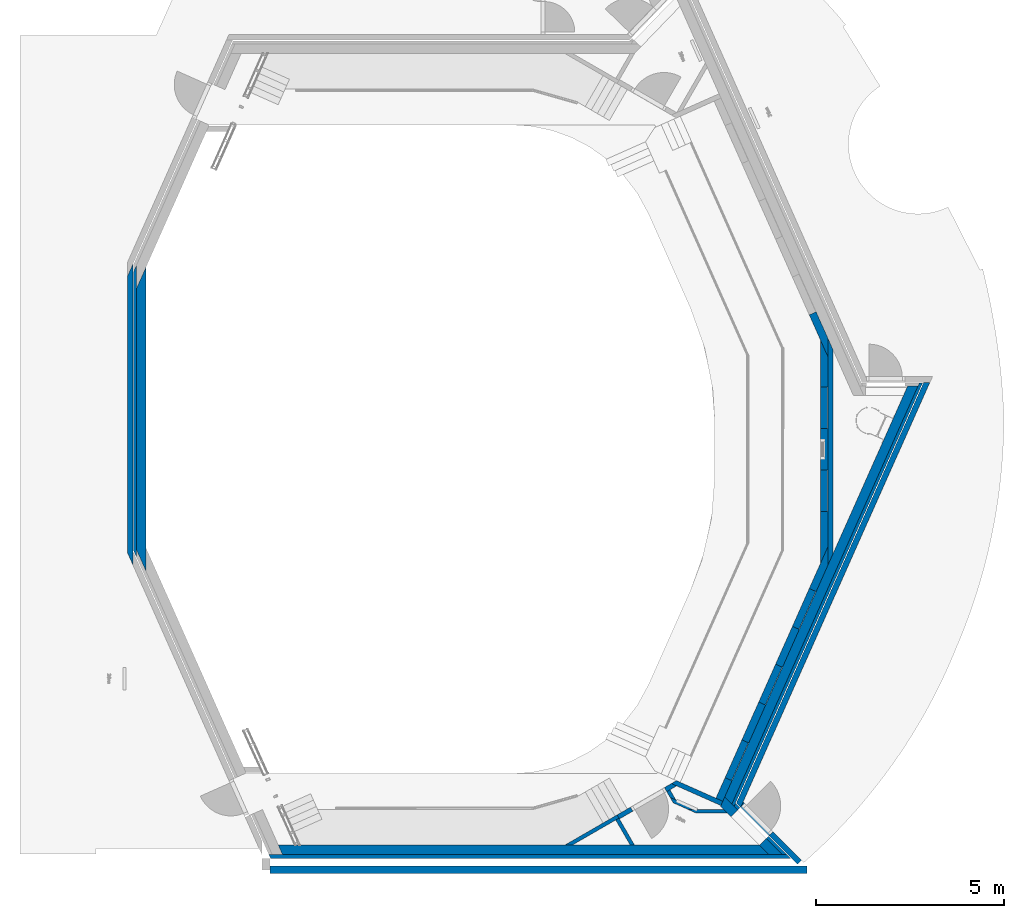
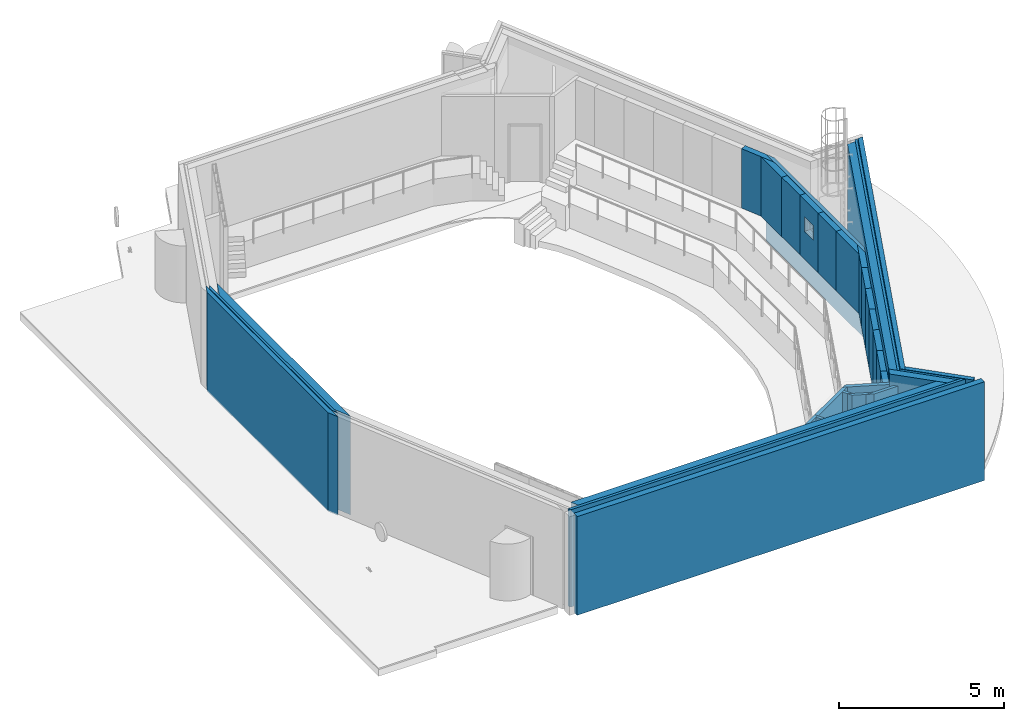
# One storey, part 7 of 16: 33 walls, 6 openings.
"""IFC2X3 building model written with IfcOpenShell, lengths in millimetres."""

from ifc_helpers import new_model, entity, si_unit, converted_unit, derived_unit, direction, frame, frame_2d, origin, origin_2d_with_axis, place, context, subcontext, project, spatial, polyline, rectangle, outline, extrude, clip, halfspace, material, layer, layer_set, layer_usage, type_object, element, save


model = new_model("IFC2X3")

# Units and contexts
model_context = context("Model", 3, precision=0.01, world=origin(), true_north=direction((6.123031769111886e-17, 1.0)))
body_context = subcontext(model_context, "Body", "Model", "MODEL_VIEW")
ifc_project = project(units=[si_unit("LENGTHUNIT", "METRE", prefix="MILLI"), si_unit("AREAUNIT", "SQUARE_METRE"), si_unit("VOLUMEUNIT", "CUBIC_METRE"), converted_unit("PLANEANGLEUNIT", "DEGREE", entity("IfcRatioMeasure", 0.017453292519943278), si_unit("PLANEANGLEUNIT", "RADIAN"), dimensions=[0, 0, 0, 0, 0, 0, 0]), si_unit("MASSUNIT", "GRAM", prefix="KILO"), derived_unit("MASSDENSITYUNIT", [(si_unit("MASSUNIT", "GRAM", prefix="KILO"), 1), (si_unit("LENGTHUNIT", "METRE"), -3)]), derived_unit("MOMENTOFINERTIAUNIT", [(si_unit("LENGTHUNIT", "METRE"), 4)]), si_unit("TIMEUNIT", "SECOND"), si_unit("FREQUENCYUNIT", "HERTZ"), si_unit("THERMODYNAMICTEMPERATUREUNIT", "DEGREE_CELSIUS"), derived_unit("THERMALTRANSMITTANCEUNIT", [(si_unit("MASSUNIT", "GRAM", prefix="KILO"), 1), (si_unit("THERMODYNAMICTEMPERATUREUNIT", "KELVIN"), -1), (si_unit("TIMEUNIT", "SECOND"), -3)]), derived_unit("VOLUMETRICFLOWRATEUNIT", [(si_unit("LENGTHUNIT", "METRE"), 3), (si_unit("TIMEUNIT", "SECOND"), -1)]), derived_unit("MASSFLOWRATEUNIT", [(si_unit("MASSUNIT", "GRAM", prefix="KILO"), 1), (si_unit("TIMEUNIT", "SECOND"), -1)]), derived_unit("ROTATIONALFREQUENCYUNIT", [(si_unit("TIMEUNIT", "SECOND"), -1)]), si_unit("ELECTRICCURRENTUNIT", "AMPERE"), si_unit("ELECTRICVOLTAGEUNIT", "VOLT"), si_unit("POWERUNIT", "WATT"), si_unit("FORCEUNIT", "NEWTON", prefix="KILO"), si_unit("ILLUMINANCEUNIT", "LUX"), si_unit("LUMINOUSFLUXUNIT", "LUMEN"), si_unit("LUMINOUSINTENSITYUNIT", "CANDELA"), derived_unit("USERDEFINED", [(si_unit("MASSUNIT", "GRAM", prefix="KILO"), -1), (si_unit("LENGTHUNIT", "METRE"), -2), (si_unit("TIMEUNIT", "SECOND"), 3), (si_unit("LUMINOUSFLUXUNIT", "LUMEN"), 1)]), derived_unit("SOUNDPOWERUNIT", [(si_unit("MASSUNIT", "GRAM", prefix="KILO"), 1), (si_unit("LENGTHUNIT", "METRE"), 2), (si_unit("TIMEUNIT", "SECOND"), -3)]), derived_unit("SOUNDPRESSUREUNIT", [(si_unit("MASSUNIT", "GRAM", prefix="KILO"), 1), (si_unit("LENGTHUNIT", "METRE"), -1), (si_unit("TIMEUNIT", "SECOND"), -2)]), derived_unit("LINEARVELOCITYUNIT", [(si_unit("LENGTHUNIT", "METRE"), 1), (si_unit("TIMEUNIT", "SECOND"), -1)]), si_unit("PRESSUREUNIT", "PASCAL"), derived_unit("USERDEFINED", [(si_unit("LENGTHUNIT", "METRE"), -2), (si_unit("MASSUNIT", "GRAM", prefix="KILO"), 1), (si_unit("TIMEUNIT", "SECOND"), -2)]), derived_unit("LINEARFORCEUNIT", [(si_unit("MASSUNIT", "GRAM", prefix="KILO"), 1), (si_unit("LENGTHUNIT", "METRE"), 1), (si_unit("TIMEUNIT", "SECOND"), -2), (si_unit("LENGTHUNIT", "METRE"), -1)]), derived_unit("PLANARFORCEUNIT", [(si_unit("MASSUNIT", "GRAM", prefix="KILO"), 1), (si_unit("LENGTHUNIT", "METRE"), 1), (si_unit("TIMEUNIT", "SECOND"), -2), (si_unit("LENGTHUNIT", "METRE"), -2)])], contexts=[model_context])

# Site, building, storey
site_placement = place(None, frame((-10000.0, -10000.0, 0.0)))
site = spatial("IfcSite", under=ifc_project, at=site_placement, Name="Default", CompositionType="ELEMENT")
building_placement = place(site_placement, origin())
building = spatial("IfcBuilding", under=site, at=building_placement, CompositionType="ELEMENT")
storey_placement = place(building_placement, frame((0.0, 0.0, 9000.0)))
storey = spatial("IfcBuildingStorey", under=building, at=storey_placement, Name="02 2e verdieping", CompositionType="ELEMENT", Elevation=9000.0)

# Walls
ifc_material_1 = material(Name="NLRS_beton ihwg")
ifc_layer_1 = layer(ifc_material_1, 250.00000000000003)
ifc_layer_set_1 = layer_set([ifc_layer_1], Name="Basic Wall:NLRS_21_WA_beton 250mm_ags")
ifc_layer_usage_1 = layer_usage(ifc_layer_set_1, "AXIS2", "NEGATIVE", 125.00000000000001)
wall_type_1 = type_object("IfcWallType", Name="Basic Wall:NLRS_21_WA_beton 250mm_ags", PredefinedType="STANDARD", material=ifc_layer_set_1)
wall_1_placement = place(storey_placement, frame((25650.0, 43486.43397011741, -50.0), z_axis=(0.0, 0.0, 1.0), x_axis=(0.0, -1.0, 0.0)))
element("IfcWallStandardCase", 1, at=wall_1_placement, inside=storey, type_object=wall_type_1, material=ifc_layer_usage_1, Name="Basic Wall:NLRS_21_WA_beton 250mm_ags", ObjectType="Basic Wall:NLRS_21_WA_beton 250mm_ags", context=body_context, shape_type="Clipping", body=[
    clip(extrude(outline(polyline([(7533.19161774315, -125.0), (8094.700811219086, 125.0), (7480.052477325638, 125.0), (0.0, 125.0), (561.5091934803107, -125.0), (7533.19161774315, -125.0)])), origin(), (0.0, 0.0, 1.0), 3649.9999999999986), halfspace(frame((0.0, 0.0, -50.0)), True)),
])
ifc_layer_usage_2 = layer_usage(ifc_layer_set_1, "AXIS2", "NEGATIVE", 125.00000000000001)
wall_2_placement = place(storey_placement, frame((29284.01712027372, 28000.0, -50.0)))
element("IfcWallStandardCase", 2, at=wall_2_placement, inside=storey, type_object=wall_type_1, material=ifc_layer_usage_2, Name="Basic Wall:NLRS_21_WA_beton 250mm_ags", ObjectType="Basic Wall:NLRS_21_WA_beton 250mm_ags", context=body_context, shape_type="Clipping", body=[
    clip(extrude(outline(polyline([(13032.486941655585, -125.0), (12782.486941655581, 125.0), (0.0, 125.0), (111.30717132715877, -125.0), (13032.486941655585, -125.0)])), origin(), (0.0, 0.0, 1.0), 3649.9999999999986), halfspace(frame((0.0, 0.0, -50.0)), True)),
])
ifc_layer_usage_3 = layer_usage(ifc_layer_set_1, "AXIS2", "NEGATIVE", 125.00000000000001)
wall_3_placement = place(storey_placement, frame((46159.346673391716, 40368.82110837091, -50.0), z_axis=(0.0, 0.0, 1.0), x_axis=(-0.40673664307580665, -0.9135454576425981, 0.0)))
element("IfcWallStandardCase", 3, at=wall_3_placement, inside=storey, type_object=wall_type_1, material=ifc_layer_usage_3, Name="Basic Wall:NLRS_21_WA_beton 250mm_ags", ObjectType="Basic Wall:NLRS_21_WA_beton 250mm_ags", context=body_context, shape_type="Clipping", body=[
    clip(extrude(outline(polyline([(12057.846742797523, -125.0), (12153.812751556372, 125.0), (0.0, 125.0), (111.30717132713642, -125.0), (12057.846742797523, -125.0)])), origin(), (0.0, 0.0, 1.0), 3649.9999999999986), halfspace(frame((0.0, 0.0, -50.0)), True)),
])

# Wall, opening
ifc_layer_usage_4 = layer_usage(ifc_layer_set_1, "AXIS2", "NEGATIVE", 125.00000000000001)
wall_4_placement = place(storey_placement, frame((41052.39703665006, 29315.883720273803, -50.0), z_axis=(0.0, 0.0, 1.0), x_axis=(0.7071067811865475, -0.7071067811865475, 0.0)))
wall_4 = element("IfcWallStandardCase", 4, at=wall_4_placement, inside=storey, type_object=wall_type_1, material=ifc_layer_usage_4, Name="Basic Wall:NLRS_21_WA_beton 250mm_ags", ObjectType="Basic Wall:NLRS_21_WA_beton 250mm_ags", context=body_context, shape_type="Clipping", body=[
    clip(extrude(outline(polyline([(95.96600875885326, -125.0), (1559.1639088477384, -125.0), (1912.7172994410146, -125.0), (2162.7172994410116, 125.0), (267.78624840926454, 125.0), (0.0, 125.0), (95.96600875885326, -125.0)])), origin(), (0.0, 0.0, 1.0), 3649.9999999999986), halfspace(frame((0.0, 0.0, -50.0)), True)),
])
opening_1_placement = place(wall_4_placement, origin())
element("IfcOpeningElement", 5, at=opening_1_placement, cuts=wall_4, Name="Basic Wall:NLRS_21_WA_beton 250mm_ags", ObjectType="Opening", context=body_context, shape_type="SweptSolid", body=[
    extrude(rectangle(XDim=2220.0, YDim=1065.0000000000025, at=frame_2d((-1.1368683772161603e-12, 0.0), x_axis=(1.0, 0.0))), frame((1026.6639088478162, -125.0, 1110.0), z_axis=(0.0, 1.0, 0.0), x_axis=(0.0, 0.0, -1.0)), (0.0, 0.0, 1.0), 250.00000000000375),
])

# Walls
ifc_material_2 = material(Name="NLRS_kalkzandsteen")
ifc_layer_2 = layer(ifc_material_2, 150.0)
ifc_layer_set_2 = layer_set([ifc_layer_2], Name="Basic Wall:NLRS_22_WA_kalkzandsteen 150mm_ags")
ifc_layer_usage_5 = layer_usage(ifc_layer_set_2, "AXIS2", "NEGATIVE", 75.0)
wall_type_2 = type_object("IfcWallType", Name="Basic Wall:NLRS_22_WA_kalkzandsteen 150mm_ags", PredefinedType="STANDARD", material=ifc_layer_set_2)
wall_5_placement = place(storey_placement, frame((25350.0, 43560.82876670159, -50.0), z_axis=(0.0, 0.0, 1.0), x_axis=(0.0, -1.0, 0.0)))
element("IfcWallStandardCase", 6, at=wall_5_placement, inside=storey, type_object=wall_type_2, material=ifc_layer_usage_5, Name="Basic Wall:NLRS_22_WA_kalkzandsteen 150mm_ags", ObjectType="Basic Wall:NLRS_22_WA_kalkzandsteen 150mm_ags", context=body_context, shape_type="Clipping", body=[
    clip(extrude(outline(polyline([(7660.725554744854, -75.0), (7997.631070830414, 75.0), (7628.84207049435, 75.0), (0.0, 75.0), (336.9055160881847, -75.0), (7660.725554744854, -75.0)])), origin(), (0.0, 0.0, 1.0), 3649.9999999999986), halfspace(frame((0.0, 0.0, -50.0)), True)),
])
ifc_layer_usage_6 = layer_usage(ifc_layer_set_2, "AXIS2", "NEGATIVE", 75.0)
wall_6_placement = place(storey_placement, frame((46523.20588443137, 40448.48427621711, -50.0), z_axis=(0.0, 0.0, 1.0), x_axis=(-0.40673664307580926, -0.9135454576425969, 0.0)))
element("IfcWallStandardCase", 7, at=wall_6_placement, inside=storey, type_object=wall_type_2, material=ifc_layer_usage_6, Name="Basic Wall:NLRS_22_WA_kalkzandsteen 150mm_ags", ObjectType="Basic Wall:NLRS_22_WA_kalkzandsteen 150mm_ags", context=body_context, shape_type="Clipping", body=[
    clip(extrude(outline(polyline([(12305.855454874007, -75.0), (12363.435060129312, 75.0), (12202.76331108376, 75.0), (0.0, 75.0), (66.7843027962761, -75.0), (12305.855454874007, -75.0)])), origin(), (0.0, 0.0, 1.0), 3649.9999999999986), halfspace(frame((0.0, 0.0, -50.0)), True)),
])

# Wall, opening
ifc_layer_usage_7 = layer_usage(ifc_layer_set_2, "AXIS2", "NEGATIVE", 75.0)
wall_7_placement = place(storey_placement, frame((41575.37779976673, 29217.16702586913, -50.0), z_axis=(0.0, 0.0, 1.0), x_axis=(0.7071067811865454, -0.7071067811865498, 0.0)))
wall_7 = element("IfcWallStandardCase", 8, at=wall_7_placement, inside=storey, type_object=wall_type_2, material=ifc_layer_usage_7, Name="Basic Wall:NLRS_22_WA_kalkzandsteen 150mm_ags", ObjectType="Basic Wall:NLRS_22_WA_kalkzandsteen 150mm_ags", context=body_context, shape_type="Clipping", body=[
    clip(extrude(outline(polyline([(2188.453928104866, -75.0), (2188.4539281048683, 75.0), (0.0, 75.0), (57.57960525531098, -75.0), (2188.453928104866, -75.0)])), origin(), (0.0, 0.0, 1.0), 3649.9999999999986), halfspace(frame((0.0, 0.0, -50.0)), True)),
])
opening_2_placement = place(wall_7_placement, origin())
element("IfcOpeningElement", 9, at=opening_2_placement, cuts=wall_7, Name="Basic Wall:NLRS_22_WA_kalkzandsteen 150mm_ags", ObjectType="Opening", context=body_context, shape_type="SweptSolid", body=[
    extrude(rectangle(XDim=2170.0000000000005, YDim=1065.0000000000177, at=frame_2d((0.0, -4.604316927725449e-12), x_axis=(1.0, 0.0))), frame((587.0574207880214, -227.4000000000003, 1135.0), z_axis=(0.0, 1.0, 0.0), x_axis=(0.0, 0.0, 1.0)), (0.0, 0.0, 1.0), 454.8000000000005),
])

# Walls
ifc_material_3 = material(Name="NLRS_metselwerk schoonwerk")
ifc_layer_3 = layer(ifc_material_3, 210.0)
ifc_layer_set_3 = layer_set([ifc_layer_3], Name="Basic Wall:NLRS_21_WA_metselwerk 210mm_ags")
ifc_layer_usage_8 = layer_usage(ifc_layer_set_3, "AXIS2", "NEGATIVE", 105.0)
wall_type_3 = type_object("IfcWallType", Name="Basic Wall:NLRS_21_WA_metselwerk 210mm_ags", PredefinedType="STANDARD", material=ifc_layer_set_3)
wall_8_placement = place(storey_placement, frame((29068.08237584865, 27470.0, -50.0)))
element("IfcWallStandardCase", 10, at=wall_8_placement, inside=storey, type_object=wall_type_3, material=ifc_layer_usage_8, Name="Basic Wall:NLRS_21_WA_metselwerk 210mm_ags", ObjectType="Basic Wall:NLRS_21_WA_metselwerk 210mm_ags", context=body_context, shape_type="Clipping", body=[
    clip(extrude(rectangle(XDim=14254.46245008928, YDim=209.99999999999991, at=frame_2d((7127.23122504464, 2.2311041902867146e-12), x_axis=(-1.0, 0.0))), origin(), (0.0, 0.0, 1.0), 3649.9999999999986), halfspace(frame((0.0, 0.0, -50.0)), True)),
])
ifc_material_4 = material(Name="NLRS_MDF")
ifc_layer_4 = layer(ifc_material_4, 12.5)
ifc_material_5 = material(Name="NLRS_gipsplaat")
ifc_layer_5 = layer(ifc_material_5, 12.5)
ifc_material_6 = material(Name="NLRS_aluminium C-profielen met isolatie")
ifc_layer_6 = layer(ifc_material_6, 75.0)
ifc_layer_7 = layer(ifc_material_5, 12.5)
ifc_layer_8 = layer(ifc_material_5, 12.5)
ifc_layer_set_4 = layer_set([ifc_layer_4, ifc_layer_5, ifc_layer_6, ifc_layer_7, ifc_layer_8], Name="Basic Wall:NLRS_22_WA_ms-wand mdf gips iso gips gips 125mm 25-75-25_ags")
ifc_layer_usage_9 = layer_usage(ifc_layer_set_4, "AXIS2", "POSITIVE", -62.50000000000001)
wall_type_4 = type_object("IfcWallType", Name="Basic Wall:NLRS_22_WA_ms-wand mdf gips iso gips gips 125mm 25-75-25_ags", PredefinedType="STANDARD", material=ifc_layer_set_4)
wall_9_placement = place(storey_placement, frame((41064.45000275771, 29232.819993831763, 0.0), z_axis=(0.0, 0.0, 1.0), x_axis=(-0.9135931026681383, 0.40662961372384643, 0.0)))
element("IfcWallStandardCase", 11, at=wall_9_placement, inside=storey, type_object=wall_type_4, material=ifc_layer_usage_9, Name="Basic Wall:NLRS_22_WA_ms-wand mdf gips iso gips gips 125mm 25-75-25_ags", ObjectType="Basic Wall:NLRS_22_WA_ms-wand mdf gips iso gips gips 125mm 25-75-25_ags", context=body_context, shape_type="SweptSolid", body=[
    extrude(outline(polyline([(1348.028243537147, -62.499999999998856), (1438.8684360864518, 62.50000000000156), (1284.346785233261, 62.50000000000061), (0.0, 62.50000000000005), (0.0, -62.50000000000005), (1348.028243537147, -62.499999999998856)])), origin(), (0.0, 0.0, 1.0), 3200.0),
])

# Wall, opening
ifc_layer_usage_10 = layer_usage(ifc_layer_set_4, "AXIS2", "POSITIVE", -62.50000000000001)
wall_10_placement = place(storey_placement, frame((39834.41528747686, 29752.100449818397, 0.0), z_axis=(0.0, 0.0, 1.0), x_axis=(-0.8660254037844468, -0.49999999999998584, 0.0)))
wall_10 = element("IfcWallStandardCase", 12, at=wall_10_placement, inside=storey, type_object=wall_type_4, material=ifc_layer_usage_10, Name="Basic Wall:NLRS_22_WA_ms-wand mdf gips iso gips gips 125mm 25-75-25_ags", ObjectType="Basic Wall:NLRS_22_WA_ms-wand mdf gips iso gips gips 125mm 25-75-25_ags", context=body_context, shape_type="SweptSolid", body=[
    extrude(outline(polyline([(90.8401925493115, -62.49999999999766), (1755.9171632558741, -62.50000000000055), (1755.9171632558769, 62.49999999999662), (305.544328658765, 62.49999999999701), (205.54432865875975, 62.49999999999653), (0.0, 62.49999999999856), (90.8401925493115, -62.49999999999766)])), origin(), (0.0, 0.0, 1.0), 3200.0),
])
opening_3_placement = place(wall_10_placement, origin())
element("IfcOpeningElement", 13, at=opening_3_placement, cuts=wall_10, Name="Basic Wall:NLRS_22_WA_ms-wand mdf gips iso gips gips 125mm 25-75-25_ags", ObjectType="Opening", context=body_context, shape_type="SweptSolid", body=[
    extrude(rectangle(XDim=2170.0000000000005, YDim=1040.0000000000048, at=frame_2d((1.1368683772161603e-12, 0.0), x_axis=(0.0, 1.0))), frame((825.5443286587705, -214.89999999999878, 1085.0), z_axis=(0.0, 1.0, 0.0), x_axis=(-1.0, 0.0, 0.0)), (0.0, 0.0, 1.0), 429.7999999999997),
])

# Walls
ifc_layer_9 = layer(ifc_material_4, 12.5)
ifc_layer_10 = layer(ifc_material_5, 12.5)
ifc_layer_11 = layer(ifc_material_6, 75.0)
ifc_layer_set_5 = layer_set([ifc_layer_9, ifc_layer_10, ifc_layer_11], Name="Basic Wall:NLRS_22_WA_ms-wand mdf gips iso 100mm 25-75_ags")
ifc_layer_usage_11 = layer_usage(ifc_layer_set_5, "AXIS2", "NEGATIVE", 50.0)
wall_type_5 = type_object("IfcWallType", Name="Basic Wall:NLRS_22_WA_ms-wand mdf gips iso 100mm 25-75_ags", PredefinedType="STANDARD", material=ifc_layer_set_5)
wall_11_placement = place(storey_placement, frame((36916.19463884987, 28081.698729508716, 0.0), z_axis=(0.0, 0.0, 1.0), x_axis=(0.866025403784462, 0.4999999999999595, 0.0)))
element("IfcWallStandardCase", 14, at=wall_11_placement, inside=storey, type_object=wall_type_5, material=ifc_layer_usage_11, Name="Basic Wall:NLRS_22_WA_ms-wand mdf gips iso 100mm 25-75_ags", ObjectType="Basic Wall:NLRS_22_WA_ms-wand mdf gips iso 100mm 25-75_ags", context=body_context, shape_type="SweptSolid", body=[
    extrude(outline(polyline([(1606.536912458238, -50.0), (1606.5369124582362, 50.0), (0.0, 50.0), (173.2050807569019, -50.0), (1506.536912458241, -50.0), (1606.536912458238, -50.0)])), origin(), (0.0, 0.0, 1.0), 3200.0),
])
ifc_layer_12 = layer(ifc_material_5, 12.5)
ifc_layer_13 = layer(ifc_material_5, 12.5)
ifc_layer_14 = layer(ifc_material_6, 75.0)
ifc_layer_set_6 = layer_set([ifc_layer_12, ifc_layer_13, ifc_layer_14], Name="Basic Wall:NLRS_22_WA_ms-wand gips iso 100mm 25-75_ags")
ifc_layer_usage_12 = layer_usage(ifc_layer_set_6, "AXIS2", "POSITIVE", -50.0)
wall_type_6 = type_object("IfcWallType", Name="Basic Wall:NLRS_22_WA_ms-wand gips iso 100mm 25-75_ags", PredefinedType="STANDARD", material=ifc_layer_set_6)
wall_12_placement = place(storey_placement, frame((38702.962406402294, 28100.0, 0.0), z_axis=(0.0, 0.0, 1.0), x_axis=(-0.49999999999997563, 0.8660254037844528, 0.0)))
element("IfcWallStandardCase", 15, at=wall_12_placement, inside=storey, type_object=wall_type_6, material=ifc_layer_usage_12, Name="Basic Wall:NLRS_22_WA_ms-wand gips iso 100mm 25-75_ags", ObjectType="Basic Wall:NLRS_22_WA_ms-wand gips iso 100mm 25-75_ags", context=body_context, shape_type="SweptSolid", body=[
    extrude(outline(polyline([(827.5345188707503, -50.0), (827.5345188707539, 50.0), (57.735026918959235, 50.0), (0.0, -50.0), (827.5345188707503, -50.0)])), origin(), (0.0, 0.0, 1.0), 3200.0),
])
ifc_layer_usage_13 = layer_usage(ifc_layer_set_6, "AXIS2", "POSITIVE", -50.0)
wall_13_placement = place(storey_placement, frame((39668.183391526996, 29348.039069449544, 0.0), z_axis=(0.0, 0.0, 1.0), x_axis=(0.9135931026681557, -0.4066296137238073, 0.0)))
element("IfcWallStandardCase", 16, at=wall_13_placement, inside=storey, type_object=wall_type_6, material=ifc_layer_usage_13, Name="Basic Wall:NLRS_22_WA_ms-wand gips iso 100mm 25-75_ags", ObjectType="Basic Wall:NLRS_22_WA_ms-wand gips iso 100mm 25-75_ags", context=body_context, shape_type="SweptSolid", body=[
    extrude(outline(polyline([(559.1314723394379, -50.0), (783.8059849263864, 50.0), (170.10273373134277, 50.0), (0.0, 50.0), (137.6042878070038, -50.0), (559.1314723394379, -50.0)])), origin(), (0.0, 0.0, 1.0), 3200.0),
])
ifc_layer_usage_14 = layer_usage(ifc_layer_set_6, "AXIS2", "NEGATIVE", 50.0)
wall_14_placement = place(storey_placement, frame((41216.5040619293, 29025.0, 0.0), z_axis=(0.0, 0.0, 1.0), x_axis=(-1.0, 0.0, 0.0)))
element("IfcWallStandardCase", 17, at=wall_14_placement, inside=storey, type_object=wall_type_6, material=ifc_layer_usage_14, Name="Basic Wall:NLRS_22_WA_ms-wand gips iso 100mm 25-75_ags", ObjectType="Basic Wall:NLRS_22_WA_ms-wand gips iso 100mm 25-75_ags", context=body_context, shape_type="SweptSolid", body=[
    extrude(outline(polyline([(1057.8334944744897, -50.0), (833.1589818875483, 50.0), (0.0, 50.0), (100.0, -50.0), (811.9094480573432, -50.0), (1057.8334944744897, -50.0)])), origin(), (0.0, 0.0, 1.0), 3200.0),
])
ifc_layer_usage_15 = layer_usage(ifc_layer_set_6, "AXIS2", "POSITIVE", -50.0)
wall_15_placement = place(storey_placement, frame((39644.357407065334, 29570.201697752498, 0.0), z_axis=(0.0, 0.0, 1.0), x_axis=(0.49999999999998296, -0.8660254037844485, 0.0)))
element("IfcWallStandardCase", 18, at=wall_15_placement, inside=storey, type_object=wall_type_6, material=ifc_layer_usage_15, Name="Basic Wall:NLRS_22_WA_ms-wand gips iso 100mm 25-75_ags", ObjectType="Basic Wall:NLRS_22_WA_ms-wand gips iso 100mm 25-75_ags", context=body_context, shape_type="SweptSolid", body=[
    extrude(outline(polyline([(174.91747067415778, -50.0), (312.52175848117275, 50.0), (0.0, 50.0), (0.0, -50.0), (174.91747067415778, -50.0)])), origin(), (0.0, 0.0, 1.0), 3200.0),
])
ifc_material_7 = material(Name="NLRS_isolatie")
ifc_layer_15 = layer(ifc_material_7, 100.0)
ifc_layer_set_7 = layer_set([ifc_layer_15], Name="Basic Wall:NLRS_21_WA_isolatie 100mm_ags")
ifc_layer_usage_16 = layer_usage(ifc_layer_set_7, "AXIS2", "NEGATIVE", 50.0)
wall_type_7 = type_object("IfcWallType", Name="Basic Wall:NLRS_21_WA_isolatie 100mm_ags", PredefinedType="STANDARD", material=ifc_layer_set_7)
wall_16_placement = place(storey_placement, frame((29034.094319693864, 27825.0, 0.0)))
element("IfcWallStandardCase", 19, at=wall_16_placement, inside=storey, type_object=wall_type_7, material=ifc_layer_usage_16, Name="Basic Wall:NLRS_21_WA_isolatie 100mm_ags", ObjectType="Basic Wall:NLRS_21_WA_isolatie 100mm_ags", context=body_context, shape_type="Clipping", body=[
    clip(extrude(outline(polyline([(13849.100217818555, -50.0), (13749.10021781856, 50.0), (13635.963132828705, 50.0), (87.5709022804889, 50.0), (0.0, 50.0), (44.52286853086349, -50.0), (13849.100217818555, -50.0)])), origin(), (0.0, 0.0, 1.0), 3600.0000000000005), halfspace(frame((0.0, 0.0, -4800.0)), True)),
])
ifc_layer_16 = layer(ifc_material_7, 80.0)
ifc_layer_set_8 = layer_set([ifc_layer_16], Name="Basic Wall:NLRS_21_WA_isolatie 80mm_ags")
ifc_layer_usage_17 = layer_usage(ifc_layer_set_8, "AXIS2", "NEGATIVE", 40.0)
wall_type_8 = type_object("IfcWallType", Name="Basic Wall:NLRS_21_WA_isolatie 80mm_ags", PredefinedType="STANDARD", material=ifc_layer_set_8)
wall_17_placement = place(storey_placement, frame((25485.0, 35756.55488552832, 0.0), z_axis=(0.0, 0.0, 1.0), x_axis=(0.0, 1.0, 0.0)))
element("IfcWallStandardCase", 20, at=wall_17_placement, inside=storey, type_object=wall_type_8, material=ifc_layer_usage_17, Name="Basic Wall:NLRS_21_WA_isolatie 80mm_ags", ObjectType="Basic Wall:NLRS_21_WA_isolatie 80mm_ags", context=body_context, shape_type="Clipping", body=[
    clip(extrude(outline(polyline([(0.0, -40.0), (196.687466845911, -40.0), (7783.018225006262, -40.0), (7603.335283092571, 40.0), (179.68294191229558, 40.0), (0.0, -40.0)])), origin(), (0.0, 0.0, 1.0), 3600.0000000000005), halfspace(frame((0.0, 0.0, -4800.0)), True)),
])
ifc_layer_usage_18 = layer_usage(ifc_layer_set_8, "AXIS2", "NEGATIVE", 40.0)
wall_18_placement = place(storey_placement, frame((41354.19014924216, 29170.59495039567, 0.0), z_axis=(0.0, 0.0, 1.0), x_axis=(0.4067366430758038, 0.9135454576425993, 0.0)))
element("IfcWallStandardCase", 21, at=wall_18_placement, inside=storey, type_object=wall_type_8, material=ifc_layer_usage_18, Name="Basic Wall:NLRS_21_WA_isolatie 80mm_ags", ObjectType="Basic Wall:NLRS_21_WA_isolatie 80mm_ags", context=body_context, shape_type="Clipping", body=[
    clip(extrude(outline(polyline([(12307.711071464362, -40.0), (12272.092776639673, 40.0), (12184.521874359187, 40.0), (30.709122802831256, 40.0), (0.0, -40.0), (85.69159949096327, -40.0), (12307.711071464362, -40.0)])), origin(), (0.0, 0.0, 1.0), 3600.0000000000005), halfspace(frame((0.0, 0.0, -4800.0)), True)),
])

# Wall, opening
ifc_layer_usage_19 = layer_usage(ifc_layer_set_8, "AXIS2", "NEGATIVE", 40.0)
wall_19_placement = place(storey_placement, frame((41397.30160981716, 29204.324384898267, 0.0), z_axis=(0.0, 0.0, 1.0), x_axis=(0.7071067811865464, -0.7071067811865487, 0.0)))
wall_19 = element("IfcWallStandardCase", 22, at=wall_19_placement, inside=storey, type_object=wall_type_8, material=ifc_layer_usage_19, Name="Basic Wall:NLRS_21_WA_isolatie 80mm_ags", ObjectType="Basic Wall:NLRS_21_WA_isolatie 80mm_ags", context=body_context, shape_type="Clipping", body=[
    clip(extrude(outline(polyline([(30.709122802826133, -40.0), (1839.9485743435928, -40.0), (1919.9485743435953, 40.0), (0.0, 40.0), (30.709122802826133, -40.0)])), origin(), (0.0, 0.0, 1.0), 3600.0000000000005), halfspace(frame((0.0, 0.0, -4800.0)), True)),
])
opening_4_placement = place(wall_19_placement, origin())
element("IfcOpeningElement", 23, at=opening_4_placement, cuts=wall_19, Name="Basic Wall:NLRS_21_WA_isolatie 80mm_ags", ObjectType="Opening", context=body_context, shape_type="SweptSolid", body=[
    extrude(rectangle(XDim=2220.0, YDim=1065.0000000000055, at=frame_2d((-1.1368683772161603e-12, -1.5347723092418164e-12), x_axis=(1.0, 0.0))), frame((703.895183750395, -40.0, 1060.0), z_axis=(0.0, 1.0, 0.0), x_axis=(0.0, 0.0, -1.0)), (0.0, 0.0, 1.0), 79.99999999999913),
])

ifc_layer_17 = layer(ifc_material_5, 12.5)
ifc_layer_18 = layer(ifc_material_5, 12.5)
ifc_layer_19 = layer(ifc_material_6, 75.0)
ifc_layer_20 = layer(ifc_material_5, 12.5)
ifc_layer_21 = layer(ifc_material_5, 12.5)
ifc_layer_set_9 = layer_set([ifc_layer_17, ifc_layer_18, ifc_layer_19, ifc_layer_20, ifc_layer_21], Name="Basic Wall:NLRS_22_WA_ms-wand gips iso gips 125mm 25-75-25_ags")
ifc_layer_usage_20 = layer_usage(ifc_layer_set_9, "AXIS2", "NEGATIVE", 62.50000000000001)
wall_type_9 = type_object("IfcWallType", Name="Basic Wall:NLRS_22_WA_ms-wand gips iso gips 125mm 25-75-25_ags", PredefinedType="STANDARD", material=ifc_layer_set_9)
wall_20_placement = place(storey_placement, frame((43947.49999999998, 41579.53333686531, 0.0), z_axis=(0.0, 0.0, 1.0), x_axis=(0.0, -1.0, 0.0)))
wall_20 = element("IfcWallStandardCase", 24, at=wall_20_placement, inside=storey, type_object=wall_type_9, material=ifc_layer_usage_20, Name="Basic Wall:NLRS_22_WA_ms-wand gips iso gips 125mm 25-75-25_ags", ObjectType="Basic Wall:NLRS_22_WA_ms-wand gips iso gips 125mm 25-75-25_ags", context=body_context, shape_type="SweptSolid", body=[
    extrude(outline(polyline([(6011.65432659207, -62.49999999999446), (5730.899729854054, 62.50000000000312), (280.7545967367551, 62.50000000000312), (0.0, -62.49999999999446), (6011.65432659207, -62.49999999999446)])), origin(), (0.0, 0.0, 1.0), 3200.0),
])
opening_5_placement = place(wall_20_placement, origin())
element("IfcOpeningElement", 25, at=opening_5_placement, cuts=wall_20, Name="Basic Wall:NLRS_22_WA_ms-wand gips iso gips 125mm 25-75-25_ags", ObjectType="Opening", context=body_context, shape_type="SweptSolid", body=[
    extrude(rectangle(XDim=550.0000000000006, YDim=549.9999999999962, at=origin_2d_with_axis()), frame((2941.0333371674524, -214.89999999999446, 2305.0), z_axis=(0.0, 1.0, 0.0), x_axis=(0.0, 0.0, 1.0)), (0.0, 0.0, 1.0), 429.79999999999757),
])

# Walls
ifc_layer_22 = layer(ifc_material_4, 12.5)
ifc_layer_23 = layer(ifc_material_5, 12.5)
ifc_layer_24 = layer(ifc_material_6, 175.0)
ifc_layer_set_10 = layer_set([ifc_layer_22, ifc_layer_23, ifc_layer_24], Name="Basic Wall:NLRS_22_WA_ms-wand mdfi gips iso 200mm 25-175_ags")
ifc_layer_usage_21 = layer_usage(ifc_layer_set_10, "AXIS2", "POSITIVE", -100.0)
wall_type_10 = type_object("IfcWallType", Name="Basic Wall:NLRS_22_WA_ms-wand mdfi gips iso 200mm 25-175_ags", PredefinedType="STANDARD", material=ifc_layer_set_10)
wall_21_placement = place(storey_placement, frame((43478.01802167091, 42247.77049294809, 1000.0), z_axis=(0.0, 0.0, 1.0), x_axis=(0.40673664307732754, -0.913545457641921, 0.0)))
element("IfcWallStandardCase", 26, at=wall_21_placement, inside=storey, type_object=wall_type_10, material=ifc_layer_usage_21, Name="Basic Wall:NLRS_22_WA_ms-wand mdfi gips iso 200mm 25-175_ags", ObjectType="Basic Wall:NLRS_22_WA_ms-wand mdfi gips iso 200mm 25-175_ags", context=body_context, shape_type="SweptSolid", body=[
    extrude(outline(polyline([(1225.2068570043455, -100.0), (775.999502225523, 100.0), (0.0, 100.0), (0.0, -100.0), (733.4881898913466, -100.0), (1225.2068570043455, -100.0)])), origin(), (0.0, 0.0, 1.0), 2200.0000000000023),
])
ifc_layer_usage_22 = layer_usage(ifc_layer_set_10, "AXIS2", "NEGATIVE", 100.0)
wall_22_placement = place(storey_placement, frame((41688.37679213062, 30880.0418405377, 1000.0), z_axis=(0.0, 0.0, 1.0), x_axis=(0.4067366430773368, 0.9135454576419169, 0.0)))
element("IfcWallStandardCase", 27, at=wall_22_placement, inside=storey, type_object=wall_type_10, material=ifc_layer_usage_22, Name="Basic Wall:NLRS_22_WA_ms-wand mdfi gips iso 200mm 25-175_ags", ObjectType="Basic Wall:NLRS_22_WA_ms-wand mdfi gips iso 200mm 25-175_ags", context=body_context, shape_type="SweptSolid", body=[
    extrude(rectangle(XDim=1099.9999999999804, YDim=200.0000000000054, at=frame_2d((549.99999999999, -4.902744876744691e-12), x_axis=(-1.0, 0.0))), origin(), (0.0, 0.0, 1.0), 2200.0000000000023),
])
ifc_layer_usage_23 = layer_usage(ifc_layer_set_10, "AXIS2", "NEGATIVE", 100.0)
wall_23_placement = place(storey_placement, frame((42583.197406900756, 32889.8418473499, 1000.0), z_axis=(0.0, 0.0, 1.0), x_axis=(0.4067366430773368, 0.9135454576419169, 0.0)))
element("IfcWallStandardCase", 28, at=wall_23_placement, inside=storey, type_object=wall_type_10, material=ifc_layer_usage_23, Name="Basic Wall:NLRS_22_WA_ms-wand mdfi gips iso 200mm 25-175_ags", ObjectType="Basic Wall:NLRS_22_WA_ms-wand mdfi gips iso 200mm 25-175_ags", context=body_context, shape_type="SweptSolid", body=[
    extrude(rectangle(XDim=1099.999999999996, YDim=200.00000000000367, at=frame_2d((549.9999999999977, -6.224354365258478e-12), x_axis=(-1.0, 0.0))), origin(), (0.0, 0.0, 1.0), 2200.0000000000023),
])
ifc_layer_usage_24 = layer_usage(ifc_layer_set_10, "AXIS2", "NEGATIVE", 100.0)
wall_24_placement = place(storey_placement, frame((43478.018021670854, 34899.641854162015, 1000.0), z_axis=(0.0, 0.0, 1.0), x_axis=(0.4067366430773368, 0.9135454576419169, 0.0)))
element("IfcWallStandardCase", 29, at=wall_24_placement, inside=storey, type_object=wall_type_10, material=ifc_layer_usage_24, Name="Basic Wall:NLRS_22_WA_ms-wand mdfi gips iso 200mm 25-175_ags", ObjectType="Basic Wall:NLRS_22_WA_ms-wand mdfi gips iso 200mm 25-175_ags", context=body_context, shape_type="SweptSolid", body=[
    extrude(outline(polyline([(775.9995022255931, -100.0), (1225.2068570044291, 100.0), (733.4881898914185, 100.0), (0.0, 100.0), (0.0, -100.0), (775.9995022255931, -100.0)])), origin(), (0.0, 0.0, 1.0), 2200.0000000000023),
])

# Wall, opening
ifc_layer_usage_25 = layer_usage(ifc_layer_set_10, "AXIS2", "NEGATIVE", 100.0)
wall_25_placement = place(storey_placement, frame((43785.0, 38088.49999969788, 1000.0), z_axis=(0.0, 0.0, 1.0), x_axis=(0.0, 1.0, 0.0)))
wall_25 = element("IfcWallStandardCase", 30, at=wall_25_placement, inside=storey, type_object=wall_type_10, material=ifc_layer_usage_25, Name="Basic Wall:NLRS_22_WA_ms-wand mdfi gips iso 200mm 25-175_ags", ObjectType="Basic Wall:NLRS_22_WA_ms-wand mdfi gips iso 200mm 25-175_ags", context=body_context, shape_type="SweptSolid", body=[
    extrude(rectangle(XDim=1099.9999999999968, YDim=199.99999999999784, at=frame_2d((549.9999999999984, 4.334310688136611e-12), x_axis=(-1.0, 0.0))), origin(), (0.0, 0.0, 1.0), 2200.0000000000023),
])
opening_6_placement = place(wall_25_placement, origin())
element("IfcOpeningElement", 31, at=opening_6_placement, cuts=wall_25, Name="Basic Wall:NLRS_22_WA_ms-wand mdfi gips iso 200mm 25-175_ags", ObjectType="Opening", context=body_context, shape_type="SweptSolid", body=[
    extrude(rectangle(XDim=550.0000000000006, YDim=549.9999999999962, at=origin_2d_with_axis()), frame((550.0, -100.0, 1305.0), z_axis=(0.0, 1.0, 0.0), x_axis=(0.0, 0.0, -1.0)), (0.0, 0.0, 1.0), 200.0000000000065),
])

# Walls
ifc_layer_usage_26 = layer_usage(ifc_layer_set_10, "AXIS2", "NEGATIVE", 100.0)
wall_26_placement = place(storey_placement, frame((43785.0, 40288.49999969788, 1000.0), z_axis=(0.0, 0.0, 1.0), x_axis=(0.0, 1.0, 0.0)))
element("IfcWallStandardCase", 32, at=wall_26_placement, inside=storey, type_object=wall_type_10, material=ifc_layer_usage_26, Name="Basic Wall:NLRS_22_WA_ms-wand mdfi gips iso 200mm 25-175_ags", ObjectType="Basic Wall:NLRS_22_WA_ms-wand mdfi gips iso 200mm 25-175_ags", context=body_context, shape_type="SweptSolid", body=[
    extrude(outline(polyline([(799.3146700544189, -100.0), (1248.5220248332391, 100.0), (0.0, 100.0), (0.0, -100.0), (799.3146700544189, -100.0)])), origin(), (0.0, 0.0, 1.0), 2200.0000000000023),
])
ifc_layer_usage_27 = layer_usage(ifc_layer_set_10, "AXIS2", "POSITIVE", -100.0)
wall_27_placement = place(storey_placement, frame((43785.0, 36988.49999969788, 1000.0), z_axis=(0.0, 0.0, 1.0), x_axis=(0.0, -1.0, 0.0)))
element("IfcWallStandardCase", 33, at=wall_27_placement, inside=storey, type_object=wall_type_10, material=ifc_layer_usage_27, Name="Basic Wall:NLRS_22_WA_ms-wand mdfi gips iso 200mm 25-175_ags", ObjectType="Basic Wall:NLRS_22_WA_ms-wand mdfi gips iso 200mm 25-175_ags", context=body_context, shape_type="SweptSolid", body=[
    extrude(outline(polyline([(1378.1096771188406, -100.0), (928.902322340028, 100.0), (0.0, 100.0), (0.0, -100.0), (1378.1096771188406, -100.0)])), origin(), (0.0, 0.0, 1.0), 2200.0000000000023),
])
ifc_layer_usage_28 = layer_usage(ifc_layer_set_10, "AXIS2", "NEGATIVE", 100.0)
wall_28_placement = place(storey_placement, frame((40998.51351915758, 29330.58356047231, 1000.0), z_axis=(0.0, 0.0, 1.0), x_axis=(0.4067366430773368, 0.9135454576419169, 0.0)))
element("IfcWallStandardCase", 34, at=wall_28_placement, inside=storey, type_object=wall_type_10, material=ifc_layer_usage_28, Name="Basic Wall:NLRS_22_WA_ms-wand mdfi gips iso 200mm 25-175_ags", ObjectType="Basic Wall:NLRS_22_WA_ms-wand mdfi gips iso 200mm 25-175_ags", context=body_context, shape_type="SweptSolid", body=[
    extrude(rectangle(XDim=596.0932453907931, YDim=200.0000000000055, at=frame_2d((298.0466226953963, -5.4001247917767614e-12), x_axis=(-1.0, 0.0))), origin(), (0.0, 0.0, 1.0), 2200.0000000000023),
])
ifc_material_8 = material(Name="NLRS_hout")
ifc_layer_25 = layer(ifc_material_8, 39.0)
ifc_material_9 = material(Name="NLRS_vilt")
ifc_layer_26 = layer(ifc_material_9, 1.0)
ifc_layer_27 = layer(ifc_material_6, 150.0)
ifc_layer_set_11 = layer_set([ifc_layer_25, ifc_layer_26, ifc_layer_27], Name="Basic Wall:NLRS_22_WA_akoestische voorzetwand 190mm 39-1-150_ags")
ifc_layer_usage_29 = layer_usage(ifc_layer_set_11, "AXIS2", "NEGATIVE", 94.99999999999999)
wall_type_11 = type_object("IfcWallType", Name="Basic Wall:NLRS_22_WA_akoestische voorzetwand 190mm 39-1-150_ags", PredefinedType="STANDARD", material=ifc_layer_set_11)
wall_29_placement = place(storey_placement, frame((42131.21937222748, 31886.975527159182, 1000.0), z_axis=(0.0, 0.0, 1.0), x_axis=(0.4067366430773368, 0.9135454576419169, 0.0)))
element("IfcWallStandardCase", 35, at=wall_29_placement, inside=storey, type_object=wall_type_11, material=ifc_layer_usage_29, Name="Basic Wall:NLRS_22_WA_akoestische voorzetwand 190mm 39-1-150_ags", ObjectType="Basic Wall:NLRS_22_WA_akoestische voorzetwand 190mm 39-1-150_ags", context=body_context, shape_type="SweptSolid", body=[
    extrude(rectangle(XDim=1099.9999999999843, YDim=189.9999999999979, at=frame_2d((549.9999999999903, 4.718003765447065e-12), x_axis=(-1.0, 0.0))), origin(), (0.0, 0.0, 1.0), 2200.0000000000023),
])
ifc_layer_usage_30 = layer_usage(ifc_layer_set_11, "AXIS2", "NEGATIVE", 94.99999999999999)
wall_30_placement = place(storey_placement, frame((43026.03998699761, 33896.775533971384, 1000.0), z_axis=(0.0, 0.0, 1.0), x_axis=(0.4067366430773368, 0.9135454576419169, 0.0)))
element("IfcWallStandardCase", 36, at=wall_30_placement, inside=storey, type_object=wall_type_11, material=ifc_layer_usage_30, Name="Basic Wall:NLRS_22_WA_akoestische voorzetwand 190mm 39-1-150_ags", ObjectType="Basic Wall:NLRS_22_WA_akoestische voorzetwand 190mm 39-1-150_ags", context=body_context, shape_type="SweptSolid", body=[
    extrude(rectangle(XDim=1099.9999999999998, YDim=189.99999999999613, at=frame_2d((549.9999999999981, 3.40349970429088e-12), x_axis=(-1.0, 0.0))), origin(), (0.0, 0.0, 1.0), 2200.0000000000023),
])
ifc_layer_usage_31 = layer_usage(ifc_layer_set_11, "AXIS2", "NEGATIVE", 94.99999999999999)
wall_31_placement = place(storey_placement, frame((43780.0, 39188.49999969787, 1000.0), z_axis=(0.0, 0.0, 1.0), x_axis=(0.0, 1.0, 0.0)))
element("IfcWallStandardCase", 37, at=wall_31_placement, inside=storey, type_object=wall_type_11, material=ifc_layer_usage_31, Name="Basic Wall:NLRS_22_WA_akoestische voorzetwand 190mm 39-1-150_ags", ObjectType="Basic Wall:NLRS_22_WA_akoestische voorzetwand 190mm 39-1-150_ags", context=body_context, shape_type="SweptSolid", body=[
    extrude(rectangle(XDim=1100.0000000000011, YDim=190.0000000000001, at=frame_2d((550.0000000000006, -4.334310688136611e-12), x_axis=(-1.0, 0.0))), origin(), (0.0, 0.0, 1.0), 2200.0000000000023),
])
ifc_layer_usage_32 = layer_usage(ifc_layer_set_11, "AXIS2", "POSITIVE", -94.99999999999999)
wall_32_placement = place(storey_placement, frame((43780.0, 38088.49999969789, 1000.0), z_axis=(0.0, 0.0, 1.0), x_axis=(0.0, -1.0, 0.0)))
element("IfcWallStandardCase", 38, at=wall_32_placement, inside=storey, type_object=wall_type_11, material=ifc_layer_usage_32, Name="Basic Wall:NLRS_22_WA_akoestische voorzetwand 190mm 39-1-150_ags", ObjectType="Basic Wall:NLRS_22_WA_akoestische voorzetwand 190mm 39-1-150_ags", context=body_context, shape_type="SweptSolid", body=[
    extrude(rectangle(XDim=1100.0000000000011, YDim=190.0000000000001, at=frame_2d((550.0000000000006, -5.4072302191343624e-12), x_axis=(-1.0, 0.0))), origin(), (0.0, 0.0, 1.0), 2200.0000000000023),
])
ifc_layer_usage_33 = layer_usage(ifc_layer_set_11, "AXIS2", "NEGATIVE", 94.99999999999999)
wall_33_placement = place(storey_placement, frame((41236.398757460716, 29877.175520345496, 1000.0), z_axis=(0.0, 0.0, 1.0), x_axis=(0.4067366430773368, 0.9135454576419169, 0.0)))
element("IfcWallStandardCase", 39, at=wall_33_placement, inside=storey, type_object=wall_type_11, material=ifc_layer_usage_33, Name="Basic Wall:NLRS_22_WA_akoestische voorzetwand 190mm 39-1-150_ags", ObjectType="Basic Wall:NLRS_22_WA_akoestische voorzetwand 190mm 39-1-150_ags", context=body_context, shape_type="SweptSolid", body=[
    extrude(rectangle(XDim=1099.9999999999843, YDim=189.9999999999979, at=frame_2d((549.9999999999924, 5.5990767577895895e-12), x_axis=(-1.0, 0.0))), origin(), (0.0, 0.0, 1.0), 2200.0000000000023),
])

save(model, "model.ifc")
